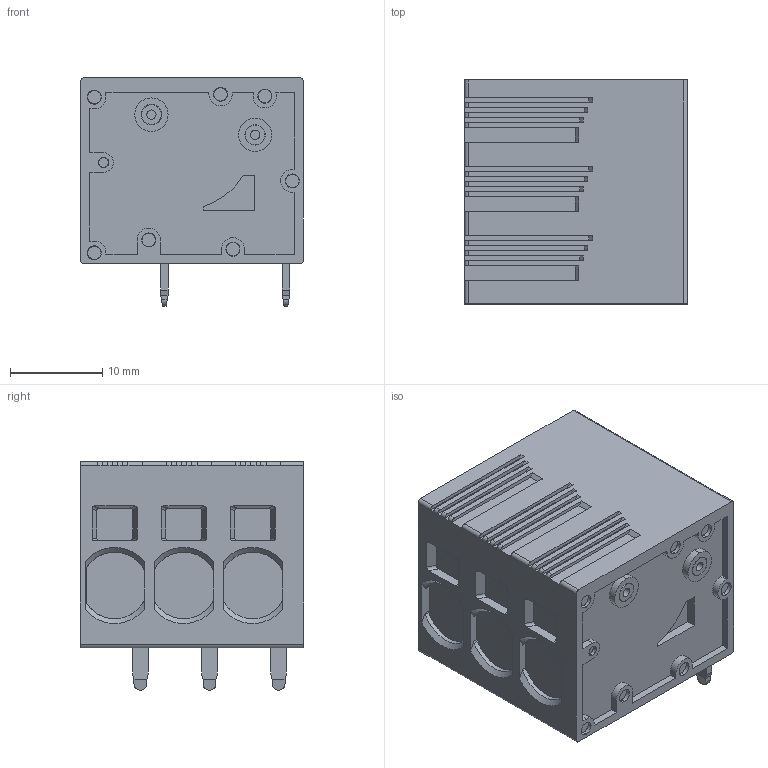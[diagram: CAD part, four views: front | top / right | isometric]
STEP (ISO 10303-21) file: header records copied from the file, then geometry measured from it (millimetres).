
FILE_DESCRIPTION((''),'2;1');
FILE_NAME('NK-03_SW0001','2019-05-14T',('zhenbing.lai'),(''),'CREO PARAMETRIC BY PTC INC, 2016260','CREO PARAMETRIC BY PTC INC, 2016260','');
FILE_SCHEMA(('CONFIG_CONTROL_DESIGN'));
Length unit declared in the file: millimetre
Products named in the file (1): NK-03_SW0001
Bounding box: 24.2 x 24.3 x 24.8 mm (x, y, z)
Volume: 10975.4 mm3; surface area: 4401.6 mm2
Topology: 1 solids, 9 shells, 685 faces, 1723 edges, 1108 vertices
Faces by surface type: plane 312, cylinder 197, cone 134, torus 42
Entity records: 20764 total; most frequent: CARTESIAN_POINT 3875, DIRECTION 3660, ORIENTED_EDGE 3446, EDGE_CURVE 1723, AXIS2_PLACEMENT_3D 1337, VERTEX_POINT 1108, VECTOR 986, LINE 986
